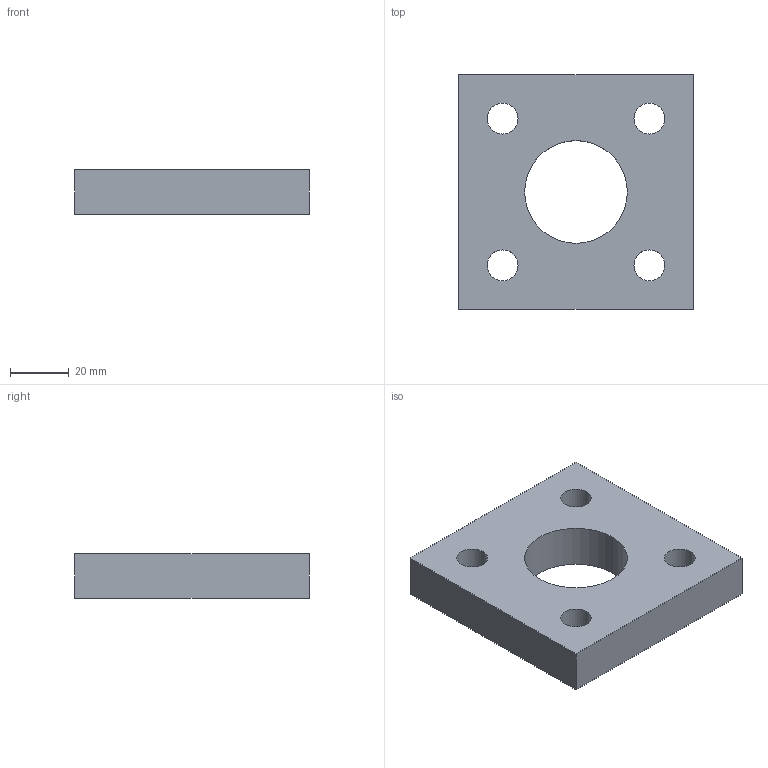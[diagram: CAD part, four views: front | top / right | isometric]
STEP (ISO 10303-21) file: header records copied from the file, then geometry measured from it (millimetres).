
FILE_DESCRIPTION (( 'STEP AP214' ), '1' );
FILE_NAME ('3D3.PC55.STEP', '2018-06-13T13:56:05', ( 'usuario' ), ( 'Hewlett-Packard Company' ), 'SwSTEP 2.0', 'SolidWorks 2013', '' );
FILE_SCHEMA (( 'AUTOMOTIVE_DESIGN' ));
Length unit declared in the file: millimetre
Products named in the file (1): 3D3.PC55
Bounding box: 80 x 80 x 15 mm (x, y, z)
Volume: 76372.9 mm3; surface area: 18611.6 mm2
Topology: 1 solids, 1 shells, 16 faces, 42 edges, 28 vertices
Faces by surface type: cylinder 10, plane 6
Entity records: 648 total; most frequent: DIRECTION 96, CARTESIAN_POINT 87, ORIENTED_EDGE 84, EDGE_CURVE 42, AXIS2_PLACEMENT_3D 37, VERTEX_POINT 28, EDGE_LOOP 26, VECTOR 22
